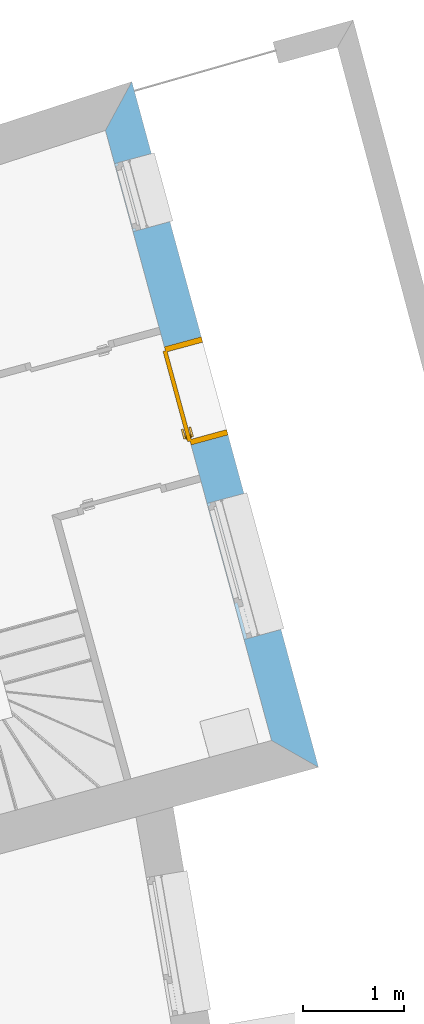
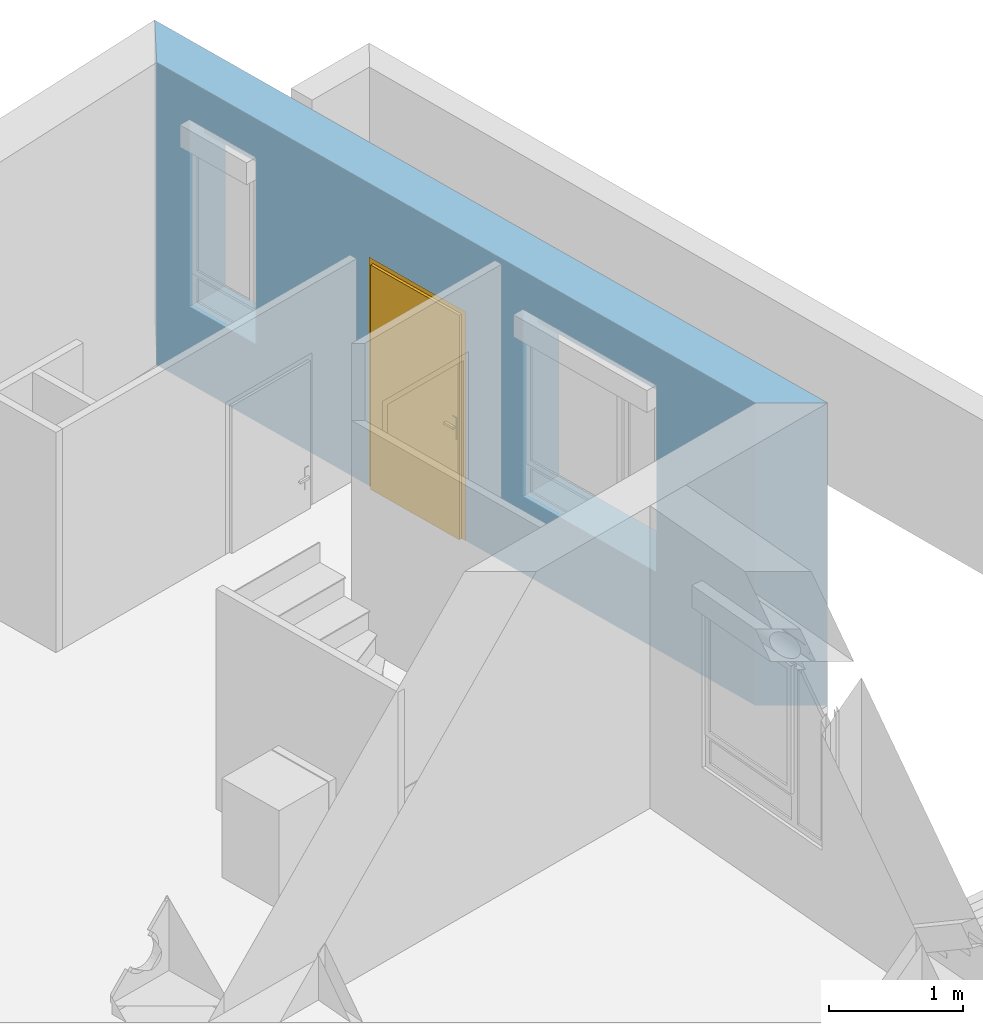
# One storey, part 98 of 195: 1 door, 3 openings, plus 1 element that does not belong to this part.
"""IFC2X3 building model written with IfcOpenShell, lengths in metres."""

import ifcopenshell
import ifcopenshell.guid

model = None  # the IFC model being written
_history = None  # IfcOwnerHistory: only IFC2X3 demands one
_inside = {}  # id of a spatial element -> (the spatial element, [elements in it])
_under = {}  # id of a project, library or spatial element -> (it, [spatial elements below it])
_declared = {}  # id of a project -> (the project, [libraries it declares])
_typed = {}  # id of a type object -> (the type object, [elements of that type])
_made_of = {}  # id of a material, layer set ... -> (it, [elements and type objects made of it])


def new_model(schema):
    """Start an empty IFC model of exactly this schema.

    Asked for "IFC4X3", IfcOpenShell would pick the latest addendum, in which some entities
    have other attributes; the version numbers below select the first issue.
    IFC2X3 requires an IfcOwnerHistory on every rooted entity: one is made here for all.
    """
    global model, _history
    if schema == "IFC4X3":
        model = ifcopenshell.file(schema_version=(4, 3, 0, 0))
    else:
        model = ifcopenshell.file(schema=schema)
    _inside.clear()
    _under.clear()
    _declared.clear()
    _typed.clear()
    _made_of.clear()
    _history = None
    if model.schema == "IFC2X3":
        org = make("IfcOrganization", Name="unknown")
        user = make(
            "IfcPersonAndOrganization",
            ThePerson=make("IfcPerson", FamilyName="unknown"),
            TheOrganization=org,
        )
        app = make(
            "IfcApplication",
            ApplicationDeveloper=org,
            Version="unknown",
            ApplicationFullName="unknown",
            ApplicationIdentifier="unknown",
        )
        _history = make(
            "IfcOwnerHistory",
            OwningUser=user,
            OwningApplication=app,
            ChangeAction="ADDED",
            CreationDate=0,
        )
    return model


def make(cls, **values):
    """One entity of the class cls with the attributes given. An attribute that is None is left unset."""
    return model.create_entity(
        cls, **{name: value for name, value in values.items() if value is not None}
    )


def entity(cls, *values):
    """Any entity or typed value of the class cls, its attributes in the order of the schema. None: left unset."""
    e = model.create_entity(cls)
    for i, value in enumerate(values):
        if value is not None:
            e[i] = value
    return e


def rooted(cls, **values):
    """An entity with a GlobalId (a new one), such as an element, a storey or a relation."""
    return make(cls, GlobalId=ifcopenshell.guid.new(), OwnerHistory=_history, **values)


def si_unit(unit_type, name, prefix=None):
    """IfcSIUnit, for example si_unit("LENGTHUNIT", "METRE", prefix="MILLI")."""
    return make("IfcSIUnit", UnitType=unit_type, Prefix=prefix, Name=name)


def converted_unit(unit_type, name, factor, base, dimensions=None, offset=None):
    """IfcConversionBasedUnit, such as the inch: factor (a typed value) times the base unit."""
    return make(
        "IfcConversionBasedUnit"
        if offset is None
        else "IfcConversionBasedUnitWithOffset",
        ConversionOffset=offset,
        Dimensions=None
        if dimensions is None
        else entity("IfcDimensionalExponents", *dimensions),
        UnitType=unit_type,
        Name=name,
        ConversionFactor=make(
            "IfcMeasureWithUnit", ValueComponent=factor, UnitComponent=base
        ),
    )


def derived_unit(unit_type, elements):
    """IfcDerivedUnit: a product of units, each with its exponent."""
    return make(
        "IfcDerivedUnit",
        Elements=[
            make("IfcDerivedUnitElement", Unit=unit, Exponent=power)
            for unit, power in elements
        ],
        UnitType=unit_type,
    )


def money_unit(currency):
    """IfcMonetaryUnit."""
    return make("IfcMonetaryUnit", Currency=currency)


def assignment(units):
    """IfcUnitAssignment: the units of a project."""
    return None if units is None else make("IfcUnitAssignment", Units=units)


def point(xyz):
    """IfcCartesianPoint."""
    return None if xyz is None else make("IfcCartesianPoint", Coordinates=xyz)


def direction(xyz):
    """IfcDirection."""
    return None if xyz is None else make("IfcDirection", DirectionRatios=xyz)


def frame(location, z_axis=None, x_axis=None):
    """IfcAxis2Placement3D, a coordinate frame: its origin and axes. An axis left out is left unset."""
    return make(
        "IfcAxis2Placement3D",
        Location=point(location),
        Axis=direction(z_axis),
        RefDirection=direction(x_axis),
    )


def frame_2d(location, x_axis=None):
    """IfcAxis2Placement2D, a coordinate frame in the plane: its origin and x axis."""
    return make(
        "IfcAxis2Placement2D", Location=point(location), RefDirection=direction(x_axis)
    )


def origin_with_axes():
    """The frame at (0, 0, 0) with the z axis (0, 0, 1) and the x axis (1, 0, 0) written out."""
    return frame((0.0, 0.0, 0.0), z_axis=(0.0, 0.0, 1.0), x_axis=(1.0, 0.0, 0.0))


def origin_2d_with_axis():
    """The frame at (0, 0) in the plane with the x axis (1, 0) written out."""
    return frame_2d((0.0, 0.0), x_axis=(1.0, 0.0))


def place(relative_to, where):
    """IfcLocalPlacement: puts the frame where relative to a parent placement (None: the world)."""
    return make(
        "IfcLocalPlacement", PlacementRelTo=relative_to, RelativePlacement=where
    )


def context(
    kind, dimensions, precision=None, world=None, true_north=None, identifier=None
):
    """IfcGeometricRepresentationContext, for example the 3D "Model" context."""
    return make(
        "IfcGeometricRepresentationContext",
        ContextIdentifier=identifier,
        ContextType=kind,
        CoordinateSpaceDimension=dimensions,
        Precision=precision,
        WorldCoordinateSystem=world,
        TrueNorth=true_north,
    )


def subcontext(parent, identifier, kind, view, scale=None):
    """IfcGeometricRepresentationSubContext, for example "Body" below "Model"."""
    return make(
        "IfcGeometricRepresentationSubContext",
        ContextIdentifier=identifier,
        ContextType=kind,
        ParentContext=parent,
        TargetScale=scale,
        TargetView=view,
    )


def project(units=None, contexts=None):
    """IfcProject with its units and contexts."""
    return rooted(
        "IfcProject",
        Name="project",
        RepresentationContexts=contexts,
        UnitsInContext=assignment(units),
    )


def spatial(cls, under=None, at=None, **own):
    """A site, building, storey or space (cls), placed at a placement, below another one or the project."""
    s = rooted(cls, ObjectPlacement=at, **own)
    if under is not None:
        _under.setdefault(under.id(), (under, []))[1].append(s)
    return s


def polyline(points):
    """IfcPolyline through the points."""
    return make("IfcPolyline", Points=[point(p) for p in points])


def profile(cls, at=None, kind="AREA", **sizes):
    """A parametric profile (cls). Its sizes go by their IFC names, for example OverallWidth=200.0."""
    return make(cls, ProfileType=kind, Position=at, **sizes)


def rectangle(**sizes):
    """IfcRectangleProfileDef."""
    return profile("IfcRectangleProfileDef", **sizes)


def outline(outer, holes=None, kind="AREA"):
    """IfcArbitraryClosedProfileDef: a profile drawn as a closed curve; with holes, ...WithVoids."""
    if holes is None:
        return make("IfcArbitraryClosedProfileDef", ProfileType=kind, OuterCurve=outer)
    return make(
        "IfcArbitraryProfileDefWithVoids",
        ProfileType=kind,
        OuterCurve=outer,
        InnerCurves=holes,
    )


def extrude(swept, where, along, depth):
    """IfcExtrudedAreaSolid: the profile swept, set in the frame where, extruded along a direction by depth."""
    return make(
        "IfcExtrudedAreaSolid",
        SweptArea=swept,
        Position=where,
        ExtrudedDirection=direction(along),
        Depth=depth,
    )


def faces_of(points, faces, orient=None, outer=None):
    """IfcFace entities. A face is a list of loops; a loop is a list of indices into points, from 0.

    orient and outer hold one flag for each loop. By default every Orientation is true, the
    first loop of a face is its IfcFaceOuterBound and the others are IfcFaceBound.
    """
    made = []
    for i, loops in enumerate(faces):
        bounds = []
        for j, loop in enumerate(loops):
            is_outer = j == 0 if outer is None else outer[i][j]
            bounds.append(
                make(
                    "IfcFaceOuterBound" if is_outer else "IfcFaceBound",
                    Bound=make("IfcPolyLoop", Polygon=[points[k] for k in loop]),
                    Orientation=True if orient is None else orient[i][j],
                )
            )
        made.append(make("IfcFace", Bounds=bounds))
    return made


def faceted_brep(points, faces, orient=None, outer=None, voids=None):
    """IfcFacetedBrep: a solid bounded by flat faces; with voids (closed shells), ...WithVoids."""
    shared = [point(p) for p in points]
    hull = make("IfcClosedShell", CfsFaces=faces_of(shared, faces, orient, outer))
    if voids is None:
        return make("IfcFacetedBrep", Outer=hull)
    return make(
        "IfcFacetedBrepWithVoids",
        Outer=hull,
        Voids=[
            make(cls, CfsFaces=faces_of(shared, fs, o, b)) for cls, fs, o, b in voids
        ],
    )


def shape(context_of_items, identifier, shape_type, items):
    """IfcShapeRepresentation: the items that make up one representation, for example the "Body"."""
    return make(
        "IfcShapeRepresentation",
        ContextOfItems=context_of_items,
        RepresentationIdentifier=identifier,
        RepresentationType=shape_type,
        Items=items,
    )


def source(mapping_origin, context_of_items, identifier, shape_type, items):
    """IfcRepresentationMap: a shape defined once, which mapped items show again and again."""
    return make(
        "IfcRepresentationMap",
        MappingOrigin=mapping_origin,
        MappedRepresentation=shape(context_of_items, identifier, shape_type, items),
    )


def transform(
    local_origin,
    x_axis=None,
    y_axis=None,
    z_axis=None,
    scale=None,
    scale2=None,
    scale3=None,
    uniform=True,
):
    """IfcCartesianTransformationOperator3D, or its non-uniform kind. x_axis, y_axis, z_axis: its Axis1, 2, 3."""
    if uniform:
        return make(
            "IfcCartesianTransformationOperator3D",
            Axis1=direction(x_axis),
            Axis2=direction(y_axis),
            LocalOrigin=point(local_origin),
            Scale=scale,
            Axis3=direction(z_axis),
        )
    return make(
        "IfcCartesianTransformationOperator3DnonUniform",
        Axis1=direction(x_axis),
        Axis2=direction(y_axis),
        LocalOrigin=point(local_origin),
        Scale=scale,
        Axis3=direction(z_axis),
        Scale2=scale2,
        Scale3=scale3,
    )


def mapped(mapping_source, mapping_target):
    """IfcMappedItem: shows the shape of a source again, moved by a transform."""
    return make(
        "IfcMappedItem", MappingSource=mapping_source, MappingTarget=mapping_target
    )


def material(Name=None, Category=None):
    """IfcMaterial."""
    return make("IfcMaterial", Name=Name, Category=Category)


def layer(
    of_material, thickness, ventilated=None, Name=None, Category=None, Priority=None
):
    """IfcMaterialLayer: one layer of a wall or slab, of a material (None: an air gap)."""
    return make(
        "IfcMaterialLayer",
        Material=of_material,
        LayerThickness=thickness,
        IsVentilated=ventilated,
        Name=Name,
        Category=Category,
        Priority=Priority,
    )


def layer_set(layers, Name=None):
    """IfcMaterialLayerSet."""
    return make("IfcMaterialLayerSet", MaterialLayers=layers, LayerSetName=Name)


def layer_usage(for_layer_set, set_direction, sense, offset, extent=None):
    """IfcMaterialLayerSetUsage: how a layer set lies in its element."""
    return make(
        "IfcMaterialLayerSetUsage",
        ForLayerSet=for_layer_set,
        LayerSetDirection=set_direction,
        DirectionSense=sense,
        OffsetFromReferenceLine=offset,
        ReferenceExtent=extent,
    )


def made_of(thing, what):
    """Note that an element or type object is made of a material, layer set ...; save() writes the relation."""
    if what is not None:
        _made_of.setdefault(what.id(), (what, []))[1].append(thing)
    return thing


def type_object(cls, material=None, **own):
    """A type object (cls), such as IfcWallType, which elements share."""
    return made_of(rooted(cls, **own), material)


def element(
    cls,
    number,
    at=None,
    inside=None,
    cuts=None,
    type_object=None,
    material=None,
    context=None,
    identifier="Body",
    shape_type=None,
    held_by="IfcProductDefinitionShape",
    body=None,
    shapes=None,
    **own,
):
    """One element of the class cls, such as IfcWall. Its Tag is "e" and its number.

    at: its placement. inside: the storey or other place that contains it. cuts: it is an
    opening in that element (IfcRelVoidsElement). A single representation is given by context,
    identifier, shape_type and body (its items); several are given by shapes. held_by: the class
    of the entity that holds the representations. save() writes the other relations.
    """
    e = rooted(cls, Tag="e%d" % number, ObjectPlacement=at, **own)
    if body is not None:
        shapes = [shape(context, identifier, shape_type, body)]
    if shapes is not None:
        e.Representation = make(held_by, Representations=shapes)
    if inside is not None:
        _inside.setdefault(inside.id(), (inside, []))[1].append(e)
    if cuts is not None:
        rooted(
            "IfcRelVoidsElement", RelatingBuildingElement=cuts, RelatedOpeningElement=e
        )
    if type_object is not None:
        _typed.setdefault(type_object.id(), (type_object, []))[1].append(e)
    return made_of(e, material)


def fill(opening, filler):
    """IfcRelFillsElement: the door or window that sits in an opening."""
    return rooted(
        "IfcRelFillsElement",
        RelatingOpeningElement=opening,
        RelatedBuildingElement=filler,
    )


def aggregate(whole, parts):
    """IfcRelAggregates: a whole, such as a stair, and the parts it consists of."""
    return rooted("IfcRelAggregates", RelatingObject=whole, RelatedObjects=parts)


def save(model, path):
    """Write the relations noted so far, then the file.

    IfcRelAggregates (storeys below a building ...), IfcRelContainedInSpatialStructure (elements
    in a storey), IfcRelDefinesByType, IfcRelAssociatesMaterial and IfcRelDeclares: one each for
    every whole, place, type object, material and project.
    """
    for whole, parts in _under.values():
        aggregate(whole, parts)
    for where, things in _inside.values():
        rooted(
            "IfcRelContainedInSpatialStructure",
            RelatedElements=things,
            RelatingStructure=where,
        )
    for kind, things in _typed.values():
        rooted("IfcRelDefinesByType", RelatedObjects=things, RelatingType=kind)
    for what, things in _made_of.values():
        rooted("IfcRelAssociatesMaterial", RelatedObjects=things, RelatingMaterial=what)
    for by, libraries in _declared.values():
        rooted("IfcRelDeclares", RelatingContext=by, RelatedDefinitions=libraries)
    model.write(path)


model = new_model("IFC2X3")

# Units and contexts
model_context = context("Model", 3, precision=1e-05, world=origin_with_axes(), true_north=direction((0.0, 1.0)))
body_context = subcontext(model_context, "Body", "Model", "MODEL_VIEW")
ifc_project = project(units=[si_unit("LENGTHUNIT", "METRE"), si_unit("AREAUNIT", "SQUARE_METRE"), si_unit("VOLUMEUNIT", "CUBIC_METRE"), converted_unit("PLANEANGLEUNIT", "DEGREE", entity("IfcPlaneAngleMeasure", 0.0174532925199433), si_unit("PLANEANGLEUNIT", "RADIAN"), dimensions=[0, 0, 0, 0, 0, 0, 0]), money_unit("CHF"), converted_unit("TIMEUNIT", "Year", entity("IfcTimeMeasure", 31557600.0), si_unit("TIMEUNIT", "SECOND"), dimensions=[0, 0, 1, 0, 0, 0, 0]), si_unit("MASSUNIT", "GRAM", prefix="KILO"), si_unit("THERMODYNAMICTEMPERATUREUNIT", "DEGREE_CELSIUS"), si_unit("LUMINOUSINTENSITYUNIT", "LUMEN"), si_unit("ENERGYUNIT", "JOULE", prefix="MEGA"), derived_unit("THERMALCONDUCTANCEUNIT", [(si_unit("POWERUNIT", "WATT"), 1), (si_unit("LENGTHUNIT", "METRE"), -1), (si_unit("THERMODYNAMICTEMPERATUREUNIT", "KELVIN"), -1)]), derived_unit("SPECIFICHEATCAPACITYUNIT", [(si_unit("ENERGYUNIT", "JOULE"), 1), (si_unit("MASSUNIT", "GRAM", prefix="KILO"), -1), (si_unit("THERMODYNAMICTEMPERATUREUNIT", "KELVIN"), -1)]), derived_unit("MASSDENSITYUNIT", [(si_unit("MASSUNIT", "GRAM", prefix="KILO"), 1), (si_unit("VOLUMEUNIT", "CUBIC_METRE"), -1)])], contexts=[model_context])

# Site, building, storey
site_placement = place(None, origin_with_axes())
site = spatial("IfcSite", under=ifc_project, at=site_placement, Name="Site", CompositionType="ELEMENT")
building_placement = place(site_placement, origin_with_axes())
building = spatial("IfcBuilding", under=site, at=building_placement, Name="Bâtiment", CompositionType="ELEMENT")
storey_placement = place(building_placement, origin_with_axes())
storey = spatial("IfcBuildingStorey", under=building, at=storey_placement, Name="rdc", CompositionType="ELEMENT", Elevation=0.0)

# Wall, openings, door
ifc_material_1 = material(Name="Parpaing 312445824")
ifc_layer_1 = layer(ifc_material_1, 0.22, ventilated="UNKNOWN")
ifc_material_2 = material(Name="Isolant styromousse 301821074")
ifc_layer_2 = layer(ifc_material_2, 0.16, ventilated="UNKNOWN")
ifc_layer_set = layer_set([ifc_layer_1, ifc_layer_2], Name="isol int 22+16 0836643197")
ifc_layer_usage = layer_usage(ifc_layer_set, "AXIS2", "NEGATIVE", 0.0)
wall_type = type_object("IfcWallType", Name="isol int 22+16 0836643197 380", PredefinedType="NOTDEFINED")
wall_placement = place(storey_placement, frame((9586.85805817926, -1013.814604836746, 57.7), z_axis=(0.0, 0.0, 1.0), x_axis=(0.2627340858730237, -0.9648682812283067, 0.0)))
wall = element("IfcWallStandardCase", 1, at=wall_placement, inside=storey, type_object=wall_type, material=ifc_layer_usage, Name="Mur-113", context=body_context, shape_type="SweptSolid", body=[
    extrude(outline(polyline([(0.3988171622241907, -0.3799999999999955), (6.677999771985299, -0.3799999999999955), (7.057999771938, 0.0), (0.0, 0.0), (0.3988171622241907, -0.3799999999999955)])), origin_with_axes(), (0.0, 0.0, 1.0), 2.75),
])
opening_1_placement = place(wall_placement, frame((4.938572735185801, 0.0, 0.7000000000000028), z_axis=(0.0, 0.0, 1.0), x_axis=(1.0, 0.0, 0.0)))
element("IfcOpeningElement", 2, at=opening_1_placement, cuts=wall, Name="Fen-045", context=body_context, shape_type="Brep", body=[
    faceted_brep([(-0.6999999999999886, -0.220000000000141, 1.5), (0.6999999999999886, -0.220000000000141, 1.5), (0.6999999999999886, 1.790229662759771, 1.5), (-0.7000000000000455, 1.790229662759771, 1.5), (-0.6999999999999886, -0.220000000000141, 1.700000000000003), (0.6999999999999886, -0.220000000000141, 1.700000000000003), (0.6999999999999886, -0.2999999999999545, 1.5), (0.6999999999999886, -0.2999999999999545, 0.0), (0.6999999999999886, 1.790229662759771, 0.0), (-0.7000000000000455, 1.790229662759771, 0.0), (-0.6999999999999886, -0.3000000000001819, 1.5), (-0.6999999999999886, -0.3000000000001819, 0.0), (-0.6999999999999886, -0.4800000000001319, 1.5), (-0.6999999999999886, -0.4800000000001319, 1.700000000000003), (0.6999999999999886, -0.4800000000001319, 1.700000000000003), (0.6999999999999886, -0.4800000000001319, 1.5), (0.6999999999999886, -2.170229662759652, 1.5), (0.6999999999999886, -2.170229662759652, 0.0), (-0.6999999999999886, -2.170229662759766, 0.0), (-0.6999999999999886, -2.170229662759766, 1.5)], [[[0, 1, 2, 3]], [[1, 0, 4, 5]], [[1, 6, 7, 8, 2]], [[2, 8, 9, 3]], [[10, 0, 3, 9, 11]], [[0, 10, 12, 13, 4]], [[14, 5, 4, 13]], [[6, 1, 5, 14, 15]], [[6, 15, 16, 17, 7]], [[7, 11, 9, 8]], [[12, 10, 11, 18, 19]], [[12, 15, 14, 13]], [[15, 12, 19, 16]], [[19, 18, 17, 16]], [[11, 7, 17, 18]]]),
])
opening_2_placement = place(wall_placement, frame((3.131626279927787, 0.0, 0.0), z_axis=(0.0, 0.0, 1.0), x_axis=(1.0, 0.0, 0.0)))
opening_2 = element("IfcOpeningElement", 3, at=opening_2_placement, cuts=wall, Name="Por-290", context=body_context, shape_type="SweptSolid", body=[
    extrude(rectangle(XDim=1.01000001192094, YDim=2.079999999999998, at=origin_2d_with_axis()), frame((-5.960487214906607e-09, 0.3800000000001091, 1.039999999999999), z_axis=(0.0, -1.0, 0.0), x_axis=(-1.0, 0.0, 0.0)), (0.0, 0.0, 1.0), 0.76),
])
opening_3_placement = place(wall_placement, frame((1.090861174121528, 0.0, 0.7000000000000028), z_axis=(0.0, 0.0, 1.0), x_axis=(1.0, 0.0, 0.0)))
element("IfcOpeningElement", 4, at=opening_3_placement, cuts=wall, Name="Fen-050", context=body_context, shape_type="Brep", body=[
    faceted_brep([(-0.3500000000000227, -0.2199999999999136, 1.5), (0.3500000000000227, -0.2199999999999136, 1.5), (0.3500000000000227, 1.790229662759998, 1.5), (-0.3500000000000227, 1.790229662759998, 1.5), (-0.3500000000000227, -0.2199999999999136, 1.700000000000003), (0.3500000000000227, -0.2199999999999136, 1.700000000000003), (0.3500000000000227, -0.3000000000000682, 1.5), (0.3499999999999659, -0.3000000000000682, 0.0), (0.3500000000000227, 1.790229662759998, 0.0), (-0.3500000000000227, 1.790229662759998, 0.0), (-0.3499999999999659, -0.2999999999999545, 1.5), (-0.3499999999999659, -0.2999999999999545, 0.0), (-0.3500000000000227, -0.4800000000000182, 1.5), (-0.3500000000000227, -0.4800000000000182, 1.700000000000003), (0.3500000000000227, -0.4799999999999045, 1.700000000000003), (0.3500000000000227, -0.4799999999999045, 1.5), (0.3500000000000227, -2.170229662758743, 1.5), (0.3500000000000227, -2.170229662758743, 0.0), (-0.3500000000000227, -2.170229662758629, 0.0), (-0.3500000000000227, -2.170229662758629, 1.5)], [[[0, 1, 2, 3]], [[1, 0, 4, 5]], [[1, 6, 7, 8, 2]], [[2, 8, 9, 3]], [[10, 0, 3, 9, 11]], [[0, 10, 12, 13, 4]], [[14, 5, 4, 13]], [[6, 1, 5, 14, 15]], [[6, 15, 16, 17, 7]], [[7, 11, 9, 8]], [[12, 10, 11, 18, 19]], [[12, 15, 14, 13]], [[15, 12, 19, 16]], [[19, 18, 17, 16]], [[11, 7, 17, 18]]]),
])
door_style = type_object("IfcDoorStyle", Name="Porte_1v", ConstructionType="NOTDEFINED", OperationType="NOTDEFINED", ParameterTakesPrecedence=False, Sizeable=False)
shared_shape = source(origin_with_axes(), body_context, "Body", "Brep", [
    faceted_brep([(0.5049999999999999, 0.0, 0.0), (0.465, 0.0, 0.0), (0.4649999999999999, 0.0, 2.04), (-0.4649999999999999, 0.0, 2.04), (-0.465, 0.0, 0.0), (-0.5049999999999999, 0.0, 0.0), (-0.5049999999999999, 0.0, 2.08), (0.5049999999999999, 0.0, 2.08), (0.5049999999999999, -0.38, 0.0), (0.45, -0.3799999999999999, 0.0), (0.45, -0.01500000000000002, 0.0), (0.465, -0.01500000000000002, 0.0), (0.4649999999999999, -0.01500000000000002, 2.04), (-0.4649999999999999, -0.01499999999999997, 2.04), (-0.465, -0.01499999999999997, 0.0), (-0.45, -0.01499999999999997, 0.0), (-0.45, -0.3799999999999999, 0.0), (-0.5049999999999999, -0.3799999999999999, 0.0), (-0.5049999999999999, -0.3799999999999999, 2.08), (0.5049999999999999, -0.38, 2.08), (-0.45, -0.3799999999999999, 2.025), (0.45, -0.3799999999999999, 2.025), (0.45, -0.01500000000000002, 2.025), (-0.45, -0.01499999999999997, 2.025)], [[[0, 1, 2, 3, 4, 5, 6, 7]], [[0, 8, 9, 10, 11, 1]], [[1, 11, 12, 2]], [[2, 12, 13, 3]], [[3, 13, 14, 4]], [[5, 4, 14, 15, 16, 17]], [[18, 6, 5, 17]], [[19, 7, 6, 18]], [[8, 0, 7, 19]], [[9, 8, 19, 18, 17, 16, 20, 21]], [[10, 9, 21, 22]], [[11, 10, 22, 23, 15, 14, 13, 12]], [[23, 20, 16, 15]], [[22, 21, 20, 23]]]),
    faceted_brep([(-0.4, -0.01499999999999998, 0.9), (-0.4399999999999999, -0.01499999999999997, 0.9), (-0.4399999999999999, -0.01499999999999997, 1.1), (-0.4, -0.01499999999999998, 1.1), (-0.4, -0.02499999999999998, 0.9), (-0.4399999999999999, -0.02499999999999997, 0.9), (-0.4399999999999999, -0.02499999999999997, 1.1), (-0.4, -0.02499999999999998, 1.1)], [[[0, 1, 2, 3]], [[1, 0, 4, 5]], [[2, 1, 5, 6]], [[3, 2, 6, 7]], [[0, 3, 7, 4]], [[5, 4, 7, 6]]]),
    faceted_brep([(-0.3299999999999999, -0.02499999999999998, 1.0), (-0.4299999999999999, -0.02499999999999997, 1.0), (-0.4299999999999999, -0.02499999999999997, 1.02), (-0.3299999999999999, -0.02499999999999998, 1.02), (-0.3299999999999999, -0.04499999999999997, 1.0), (-0.4299999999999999, -0.04499999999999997, 1.0), (-0.4299999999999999, -0.04499999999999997, 1.02), (-0.3299999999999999, -0.04499999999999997, 1.02)], [[[0, 1, 2, 3]], [[1, 0, 4, 5]], [[2, 1, 5, 6]], [[3, 2, 6, 7]], [[0, 3, 7, 4]], [[5, 4, 7, 6]]]),
    faceted_brep([(-0.4, 0.03500000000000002, 0.9), (-0.4399999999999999, 0.03500000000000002, 0.9), (-0.4399999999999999, 0.03500000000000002, 1.1), (-0.4, 0.03500000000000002, 1.1), (-0.4, 0.02500000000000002, 0.9), (-0.4399999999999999, 0.02500000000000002, 0.9), (-0.4399999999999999, 0.02500000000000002, 1.1), (-0.4, 0.02500000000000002, 1.1)], [[[0, 1, 2, 3]], [[1, 0, 4, 5]], [[2, 1, 5, 6]], [[3, 2, 6, 7]], [[0, 3, 7, 4]], [[5, 4, 7, 6]]]),
    faceted_brep([(-0.3299999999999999, 0.05500000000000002, 1.0), (-0.4299999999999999, 0.05500000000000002, 1.0), (-0.4299999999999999, 0.05500000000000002, 1.02), (-0.3299999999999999, 0.05500000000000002, 1.02), (-0.3299999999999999, 0.03500000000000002, 1.0), (-0.4299999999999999, 0.03500000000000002, 1.0), (-0.4299999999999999, 0.03500000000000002, 1.02), (-0.3299999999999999, 0.03500000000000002, 1.02)], [[[0, 1, 2, 3]], [[1, 0, 4, 5]], [[2, 1, 5, 6]], [[3, 2, 6, 7]], [[0, 3, 7, 4]], [[5, 4, 7, 6]]]),
    faceted_brep([(-0.465, 0.02500000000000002, 0.0), (0.465, 0.02499999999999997, 0.0), (0.465, -0.01500000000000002, 0.0), (-0.465, -0.01499999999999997, 0.0), (-0.465, 0.02500000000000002, 2.04), (0.465, 0.02499999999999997, 2.04), (0.465, -0.01500000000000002, 2.04), (-0.465, -0.01499999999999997, 2.04)], [[[0, 1, 2, 3]], [[0, 4, 5, 1]], [[1, 5, 6, 2]], [[3, 2, 6, 7]], [[4, 0, 3, 7]], [[5, 4, 7, 6]]]),
])
door_placement = place(opening_2_placement, frame((0.4649999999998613, 0.0, 0.0), z_axis=(0.0, 0.0, 1.0), x_axis=(-1.0, 0.0, 0.0)))
door = element("IfcDoor", 5, at=door_placement, inside=storey, type_object=door_style, Name="Por-290", OverallHeight=2.04, OverallWidth=0.93, context=body_context, shape_type="MappedRepresentation", body=[
    mapped(shared_shape, transform((0.464999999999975, 0.3799999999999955, 0.0))),
])
fill(opening_2, door)

save(model, "model.ifc")
